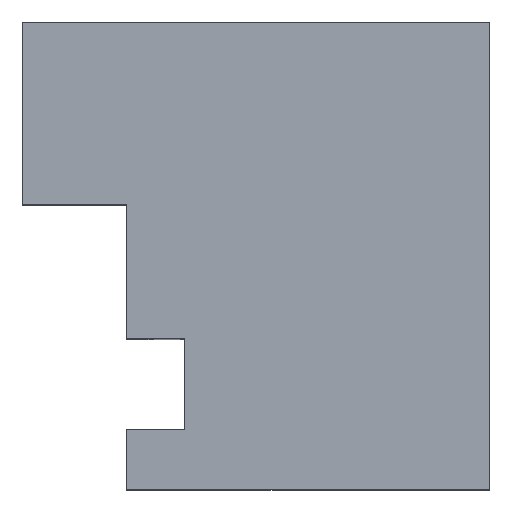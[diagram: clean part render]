
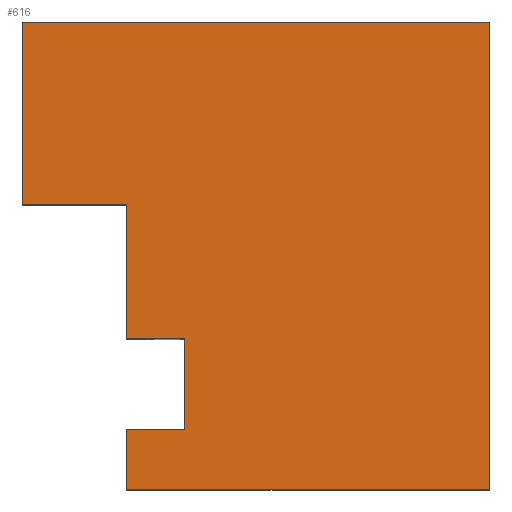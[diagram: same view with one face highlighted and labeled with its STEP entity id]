
A CAD part, top view. The second image highlights one B-rep face of the part: STEP entity #616.
In plain terms, the highlighted planar face has unit normal (0, 0, 1).
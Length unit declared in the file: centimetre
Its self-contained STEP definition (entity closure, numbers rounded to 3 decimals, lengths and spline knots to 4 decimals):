
#58 = VERTEX_POINT ( 'NONE', #393 ) ;
#59 = CARTESIAN_POINT ( 'NONE',  ( 223.0383, 609.8046, 1000. ) ) ;
#62 = ORIENTED_EDGE ( 'NONE', *, *, #468, .T. ) ;
#69 = CARTESIAN_POINT ( 'NONE',  ( 0., 609.8046, 1000. ) ) ;
#74 = LINE ( 'NONE', #1204, #767 ) ;
#78 = CARTESIAN_POINT ( 'NONE',  ( 0., 0., 1000. ) ) ;
#100 = EDGE_CURVE ( 'NONE', #1274, #984, #170, .T. ) ;
#117 = EDGE_CURVE ( 'NONE', #1210, #860, #435, .T. ) ;
#132 = ORIENTED_EDGE ( 'NONE', *, *, #117, .T. ) ;
#137 = DIRECTION ( 'NONE',  ( -1., 0., 0. ) ) ;
#143 = EDGE_CURVE ( 'NONE', #691, #474, #1379, .T. ) ;
#157 = CARTESIAN_POINT ( 'NONE',  ( 0., 1000., 1000. ) ) ;
#170 = LINE ( 'NONE', #820, #1336 ) ;
#171 = DIRECTION ( 'NONE',  ( -1., 0., 0. ) ) ;
#173 = CARTESIAN_POINT ( 'NONE',  ( 347.1984, 321.8358, 1000. ) ) ;
#180 = LINE ( 'NONE', #69, #1272 ) ;
#195 = EDGE_CURVE ( 'NONE', #408, #1435, #1623, .T. ) ;
#261 = LINE ( 'NONE', #1041, #1293 ) ;
#274 = EDGE_CURVE ( 'NONE', #1435, #1274, #881, .T. ) ;
#313 = VERTEX_POINT ( 'NONE', #413 ) ;
#322 = PLANE ( 'NONE',  #928 ) ;
#340 = VECTOR ( 'NONE', #873, 100. ) ;
#393 = CARTESIAN_POINT ( 'NONE',  ( 347.1984, 126.9678, 1000. ) ) ;
#408 = VERTEX_POINT ( 'NONE', #1357 ) ;
#413 = CARTESIAN_POINT ( 'NONE',  ( 223.0383, 609.8046, 1000. ) ) ;
#435 = LINE ( 'NONE', #59, #1634 ) ;
#468 = EDGE_CURVE ( 'NONE', #313, #691, #74, .T. ) ;
#474 = VERTEX_POINT ( 'NONE', #173 ) ;
#485 = CARTESIAN_POINT ( 'NONE',  ( 223.0383, 0., 1000. ) ) ;
#495 = ORIENTED_EDGE ( 'NONE', *, *, #195, .T. ) ;
#532 = VECTOR ( 'NONE', #1273, 100. ) ;
#546 = VECTOR ( 'NONE', #1651, 100. ) ;
#552 = CARTESIAN_POINT ( 'NONE',  ( 0., 609.8046, 1000. ) ) ;
#616 = ADVANCED_FACE ( 'NONE', ( #1231 ), #322, .T. ) ;
#647 = LINE ( 'NONE', #1163, #532 ) ;
#649 = ORIENTED_EDGE ( 'NONE', *, *, #771, .T. ) ;
#686 = VECTOR ( 'NONE', #1409, 100. ) ;
#691 = VERTEX_POINT ( 'NONE', #1103 ) ;
#733 = EDGE_CURVE ( 'NONE', #58, #1210, #261, .T. ) ;
#767 = VECTOR ( 'NONE', #1448, 100. ) ;
#771 = EDGE_CURVE ( 'NONE', #860, #408, #647, .T. ) ;
#820 = CARTESIAN_POINT ( 'NONE',  ( 0., 1000., 1000. ) ) ;
#842 = EDGE_LOOP ( 'NONE', ( #132, #649, #495, #1538, #1165, #856, #62, #1564, #1584, #1152 ) ) ;
#856 = ORIENTED_EDGE ( 'NONE', *, *, #1552, .F. ) ;
#860 = VERTEX_POINT ( 'NONE', #485 ) ;
#873 = DIRECTION ( 'NONE',  ( 1., 0., 0. ) ) ;
#881 = LINE ( 'NONE', #1263, #686 ) ;
#928 = AXIS2_PLACEMENT_3D ( 'NONE', #78, #1003, #1353 ) ;
#959 = DIRECTION ( 'NONE',  ( 0., -1., 0. ) ) ;
#984 = VERTEX_POINT ( 'NONE', #552 ) ;
#1003 = DIRECTION ( 'NONE',  ( 0., 0., 1. ) ) ;
#1028 = CARTESIAN_POINT ( 'NONE',  ( 223.0383, 126.9678, 1000. ) ) ;
#1041 = CARTESIAN_POINT ( 'NONE',  ( 159.7549, 126.9678, 1000. ) ) ;
#1086 = DIRECTION ( 'NONE',  ( 0., -1., 0. ) ) ;
#1103 = CARTESIAN_POINT ( 'NONE',  ( 223.0383, 321.8358, 1000. ) ) ;
#1129 = EDGE_CURVE ( 'NONE', #474, #58, #1528, .T. ) ;
#1152 = ORIENTED_EDGE ( 'NONE', *, *, #733, .T. ) ;
#1163 = CARTESIAN_POINT ( 'NONE',  ( 0., 0., 1000. ) ) ;
#1165 = ORIENTED_EDGE ( 'NONE', *, *, #100, .T. ) ;
#1204 = CARTESIAN_POINT ( 'NONE',  ( 223.0383, 609.8046, 1000. ) ) ;
#1210 = VERTEX_POINT ( 'NONE', #1028 ) ;
#1231 = FACE_OUTER_BOUND ( 'NONE', #842, .T. ) ;
#1262 = DIRECTION ( 'NONE',  ( 0., -1., 0. ) ) ;
#1263 = CARTESIAN_POINT ( 'NONE',  ( 0., 1000., 1000. ) ) ;
#1271 = CARTESIAN_POINT ( 'NONE',  ( 159.7549, 321.8358, 1000. ) ) ;
#1272 = VECTOR ( 'NONE', #171, 100. ) ;
#1273 = DIRECTION ( 'NONE',  ( 1., 0., 0. ) ) ;
#1274 = VERTEX_POINT ( 'NONE', #157 ) ;
#1293 = VECTOR ( 'NONE', #137, 100. ) ;
#1336 = VECTOR ( 'NONE', #1086, 100. ) ;
#1353 = DIRECTION ( 'NONE',  ( 1., 0., 0. ) ) ;
#1357 = CARTESIAN_POINT ( 'NONE',  ( 1000., 0., 1000. ) ) ;
#1379 = LINE ( 'NONE', #1271, #340 ) ;
#1395 = CARTESIAN_POINT ( 'NONE',  ( 347.1984, 126.9678, 1000. ) ) ;
#1397 = VECTOR ( 'NONE', #1262, 100. ) ;
#1409 = DIRECTION ( 'NONE',  ( -1., 0., 0. ) ) ;
#1435 = VERTEX_POINT ( 'NONE', #1491 ) ;
#1448 = DIRECTION ( 'NONE',  ( 0., -1., 0. ) ) ;
#1491 = CARTESIAN_POINT ( 'NONE',  ( 1000., 1000., 1000. ) ) ;
#1513 = CARTESIAN_POINT ( 'NONE',  ( 1000., 1000., 1000. ) ) ;
#1528 = LINE ( 'NONE', #1395, #1397 ) ;
#1538 = ORIENTED_EDGE ( 'NONE', *, *, #274, .T. ) ;
#1552 = EDGE_CURVE ( 'NONE', #313, #984, #180, .T. ) ;
#1564 = ORIENTED_EDGE ( 'NONE', *, *, #143, .T. ) ;
#1584 = ORIENTED_EDGE ( 'NONE', *, *, #1129, .T. ) ;
#1623 = LINE ( 'NONE', #1513, #546 ) ;
#1634 = VECTOR ( 'NONE', #959, 100. ) ;
#1651 = DIRECTION ( 'NONE',  ( 0., 1., 0. ) ) ;
